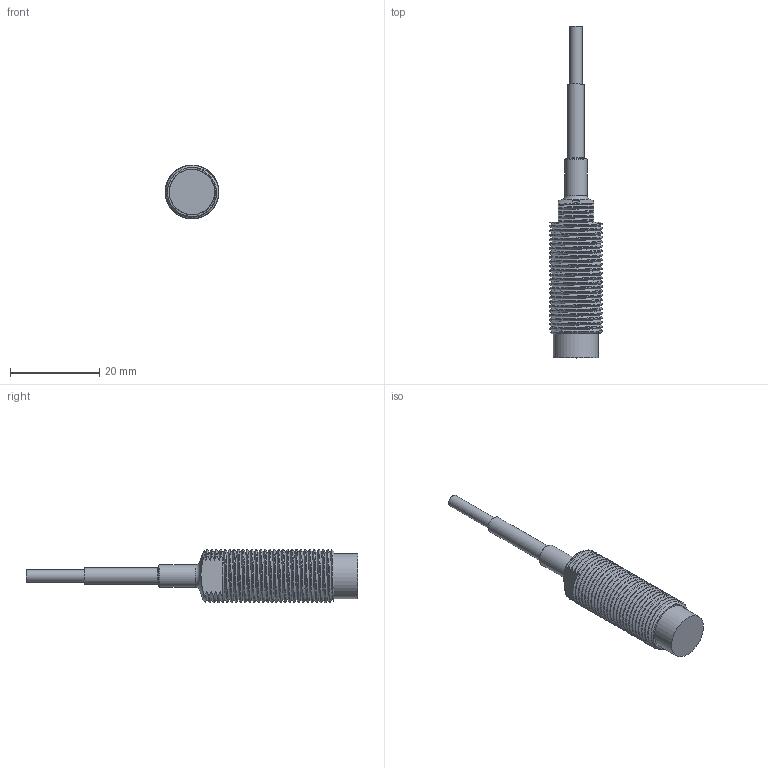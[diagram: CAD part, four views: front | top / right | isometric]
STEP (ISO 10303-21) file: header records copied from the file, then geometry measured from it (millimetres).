
FILE_DESCRIPTION( ( 'STEP AP214' ), '1' );
FILE_NAME( 'N:/Engineering/CAD_Solid/Wirbelstrom/Wirbelstromsensoren/T3/T3-G-KA-VL10.stp', '2013-04-26T07:47:27', ( ' ' ), ( ' ' ), 'XStep 1.0', ' ', ' ' );
FILE_SCHEMA( ( 'CONFIG_CONTROL_DESIGN) ( )' ) );
Length unit declared in the file: metre
Products named in the file (3): 1; 2; 3
Bounding box: 12 x 74.4 x 12 mm (x, y, z)
Surface area: 2797.9 mm2 (no closed solid volume)
Topology: 0 solids, 51 shells, 51 faces, 258 edges, 243 vertices
Faces by surface type: bspline 19, cylinder 14, plane 9, cone 6, torus 3
Full cylindrical faces by diameter (mm): 1.6 x2, 2.7 x1, 3.7 x1, 5 x1, 10.1 x1
Entity records: 60785 total; most frequent: CARTESIAN_POINT 59307, ORIENTED_EDGE 238, EDGE_CURVE 238, VERTEX_POINT 238, DIRECTION 180, B_SPLINE_CURVE_WITH_KNOTS 112, AXIS2_PLACEMENT_3D 73, FACE_BOUND 64
